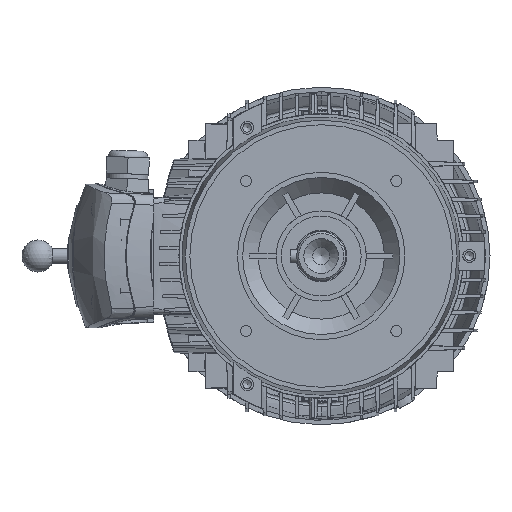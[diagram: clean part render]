
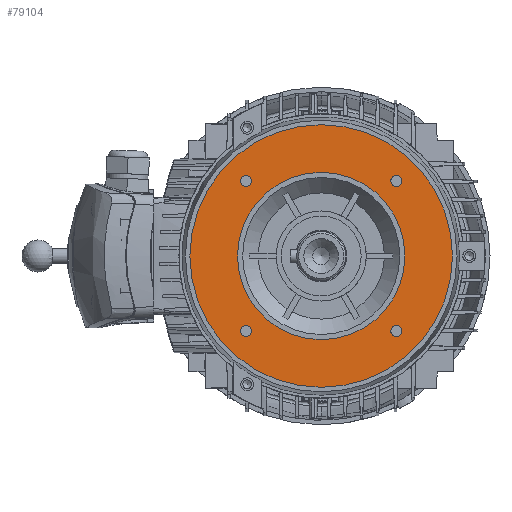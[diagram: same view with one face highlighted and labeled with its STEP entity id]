
A CAD part, left-side view. The second image highlights one B-rep face of the part: STEP entity #79104.
In plain terms, the highlighted planar face has unit normal (-1, 0, 0) as drawn and (0, 0, 1) by its records, which use the part's own axes.
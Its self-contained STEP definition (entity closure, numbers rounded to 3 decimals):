
#76198=CARTESIAN_POINT('',(-54.086,58.336,20.5));
#76199=VERTEX_POINT('',#76198);
#76200=CARTESIAN_POINT('',(-58.336,58.336,20.5));
#76201=DIRECTION('',(0.0,0.0,1.0));
#76202=DIRECTION('',(1.0,0.0,0.0));
#76203=AXIS2_PLACEMENT_3D('',#76200,#76201,#76202);
#76204=CIRCLE('',#76203,4.25);
#76205=EDGE_CURVE('',#76199,#76199,#76204,.T.);
#76226=CARTESIAN_POINT('',(-54.086,-58.336,20.5));
#76227=VERTEX_POINT('',#76226);
#76228=CARTESIAN_POINT('',(-58.336,-58.336,20.5));
#76229=DIRECTION('',(0.0,0.0,1.0));
#76230=DIRECTION('',(1.0,0.0,0.0));
#76231=AXIS2_PLACEMENT_3D('',#76228,#76229,#76230);
#76232=CIRCLE('',#76231,4.25);
#76233=EDGE_CURVE('',#76227,#76227,#76232,.T.);
#76254=CARTESIAN_POINT('',(62.586,-58.336,20.5));
#76255=VERTEX_POINT('',#76254);
#76256=CARTESIAN_POINT('',(58.336,-58.336,20.5));
#76257=DIRECTION('',(0.0,0.0,1.0));
#76258=DIRECTION('',(1.0,0.0,0.0));
#76259=AXIS2_PLACEMENT_3D('',#76256,#76257,#76258);
#76260=CIRCLE('',#76259,4.25);
#76261=EDGE_CURVE('',#76255,#76255,#76260,.T.);
#76282=CARTESIAN_POINT('',(62.586,58.336,20.5));
#76283=VERTEX_POINT('',#76282);
#76284=CARTESIAN_POINT('',(58.336,58.336,20.5));
#76285=DIRECTION('',(0.0,0.0,1.0));
#76286=DIRECTION('',(1.0,0.0,0.0));
#76287=AXIS2_PLACEMENT_3D('',#76284,#76285,#76286);
#76288=CIRCLE('',#76287,4.25);
#76289=EDGE_CURVE('',#76283,#76283,#76288,.T.);
#76882=CARTESIAN_POINT('',(102.,0.0,20.5));
#76883=VERTEX_POINT('',#76882);
#76884=CARTESIAN_POINT('',(0.0,0.0,20.5));
#76885=DIRECTION('',(0.0,0.0,1.0));
#76886=DIRECTION('',(1.0,0.0,0.0));
#76887=AXIS2_PLACEMENT_3D('',#76884,#76885,#76886);
#76888=CIRCLE('',#76887,102.);
#76889=EDGE_CURVE('',#76883,#76883,#76888,.T.);
#76899=CARTESIAN_POINT('',(65.0,0.0,20.5));
#76900=VERTEX_POINT('',#76899);
#76901=CARTESIAN_POINT('',(0.0,0.0,20.5));
#76902=DIRECTION('',(0.0,0.0,1.0));
#76903=DIRECTION('',(1.0,0.0,0.0));
#76904=AXIS2_PLACEMENT_3D('',#76901,#76902,#76903);
#76905=CIRCLE('',#76904,65.0);
#76906=EDGE_CURVE('',#76900,#76900,#76905,.T.);
#79081=CARTESIAN_POINT('',(0.0,110.5,20.5));
#79082=DIRECTION('',(0.0,0.0,1.0));
#79083=DIRECTION('',(1.0,0.0,0.0));
#79084=AXIS2_PLACEMENT_3D('',#79081,#79082,#79083);
#79085=PLANE('',#79084);
#79086=ORIENTED_EDGE('',*,*,#76889,.T.);
#79087=EDGE_LOOP('',(#79086));
#79088=FACE_OUTER_BOUND('',#79087,.T.);
#79089=ORIENTED_EDGE('',*,*,#76233,.F.);
#79090=EDGE_LOOP('',(#79089));
#79091=FACE_BOUND('',#79090,.T.);
#79092=ORIENTED_EDGE('',*,*,#76261,.F.);
#79093=EDGE_LOOP('',(#79092));
#79094=FACE_BOUND('',#79093,.T.);
#79095=ORIENTED_EDGE('',*,*,#76289,.F.);
#79096=EDGE_LOOP('',(#79095));
#79097=FACE_BOUND('',#79096,.T.);
#79098=ORIENTED_EDGE('',*,*,#76906,.F.);
#79099=EDGE_LOOP('',(#79098));
#79100=FACE_BOUND('',#79099,.T.);
#79101=ORIENTED_EDGE('',*,*,#76205,.F.);
#79102=EDGE_LOOP('',(#79101));
#79103=FACE_BOUND('',#79102,.T.);
#79104=ADVANCED_FACE('',(#79088,#79091,#79094,#79097,#79100,#79103),#79085,.T.);
